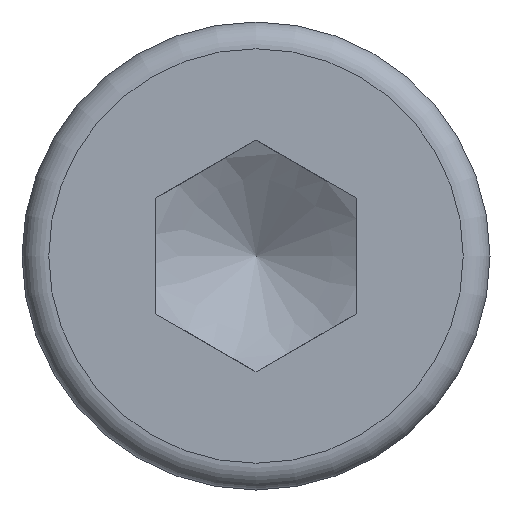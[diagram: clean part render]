
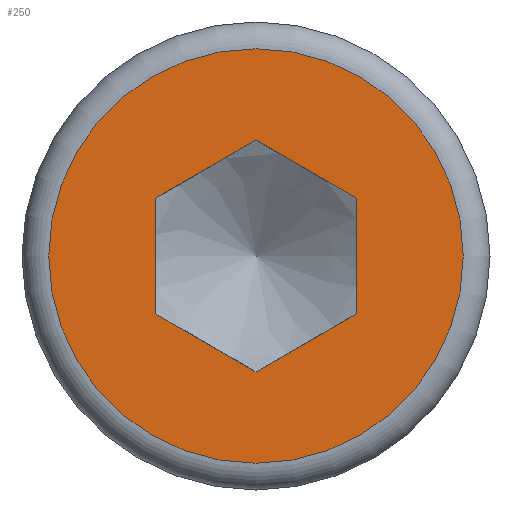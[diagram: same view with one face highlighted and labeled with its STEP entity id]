
A CAD part, left-side view. The second image highlights one B-rep face of the part: STEP entity #250.
In plain terms, the highlighted planar face has unit normal (-1, 0, 0).
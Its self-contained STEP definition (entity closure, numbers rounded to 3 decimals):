
#25=FACE_BOUND('',#92,.T.);
#28=PLANE('',#300);
#37=LINE('',#415,#53);
#38=LINE('',#417,#54);
#39=LINE('',#419,#55);
#40=LINE('',#421,#56);
#41=LINE('',#423,#57);
#42=LINE('',#424,#58);
#53=VECTOR('',#351,10.);
#54=VECTOR('',#352,10.);
#55=VECTOR('',#353,10.);
#56=VECTOR('',#354,10.);
#57=VECTOR('',#355,10.);
#58=VECTOR('',#356,10.);
#75=FACE_OUTER_BOUND('',#91,.T.);
#91=EDGE_LOOP('',(#196));
#92=EDGE_LOOP('',(#197,#198,#199,#200,#201,#202));
#112=CIRCLE('',#299,3.1);
#122=VERTEX_POINT('',#409);
#123=VERTEX_POINT('',#413);
#124=VERTEX_POINT('',#414);
#125=VERTEX_POINT('',#416);
#126=VERTEX_POINT('',#418);
#127=VERTEX_POINT('',#420);
#128=VERTEX_POINT('',#422);
#150=EDGE_CURVE('',#122,#122,#112,.T.);
#151=EDGE_CURVE('',#123,#124,#37,.T.);
#152=EDGE_CURVE('',#124,#125,#38,.T.);
#153=EDGE_CURVE('',#125,#126,#39,.T.);
#154=EDGE_CURVE('',#126,#127,#40,.T.);
#155=EDGE_CURVE('',#127,#128,#41,.T.);
#156=EDGE_CURVE('',#128,#123,#42,.T.);
#196=ORIENTED_EDGE('',*,*,#150,.F.);
#197=ORIENTED_EDGE('',*,*,#151,.T.);
#198=ORIENTED_EDGE('',*,*,#152,.T.);
#199=ORIENTED_EDGE('',*,*,#153,.T.);
#200=ORIENTED_EDGE('',*,*,#154,.T.);
#201=ORIENTED_EDGE('',*,*,#155,.T.);
#202=ORIENTED_EDGE('',*,*,#156,.T.);
#250=ADVANCED_FACE('',(#75,#25),#28,.T.);
#299=AXIS2_PLACEMENT_3D('',#411,#347,#348);
#300=AXIS2_PLACEMENT_3D('',#412,#349,#350);
#347=DIRECTION('center_axis',(1.,0.,0.));
#348=DIRECTION('ref_axis',(0.,-1.,0.));
#349=DIRECTION('center_axis',(-1.,0.,0.));
#350=DIRECTION('ref_axis',(0.,0.,1.));
#351=DIRECTION('',(0.,0.,1.));
#352=DIRECTION('',(0.,-0.866,0.5));
#353=DIRECTION('',(0.,-0.866,-0.5));
#354=DIRECTION('',(0.,0.,-1.));
#355=DIRECTION('',(0.,0.866,-0.5));
#356=DIRECTION('',(0.,0.866,0.5));
#409=CARTESIAN_POINT('',(-4.,0.,3.1));
#411=CARTESIAN_POINT('Origin',(-4.,0.,
0.));
#412=CARTESIAN_POINT('Origin',(-4.,2.616,0.));
#413=CARTESIAN_POINT('',(-4.,1.5,-0.866));
#414=CARTESIAN_POINT('',(-4.,1.5,0.866));
#415=CARTESIAN_POINT('',(-4.,1.5,0.433));
#416=CARTESIAN_POINT('',(-4.,0.,1.732));
#417=CARTESIAN_POINT('',(-4.,0.375,1.516));
#418=CARTESIAN_POINT('',(-4.,-1.5,0.866));
#419=CARTESIAN_POINT('',(-4.,-1.125,1.083));
#420=CARTESIAN_POINT('',(-4.,-1.5,-0.866));
#421=CARTESIAN_POINT('',(-4.,-1.5,-0.433));
#422=CARTESIAN_POINT('',(-4.,0.,-1.732));
#423=CARTESIAN_POINT('',(-4.,-0.375,-1.516));
#424=CARTESIAN_POINT('',(-4.,1.125,-1.083));
